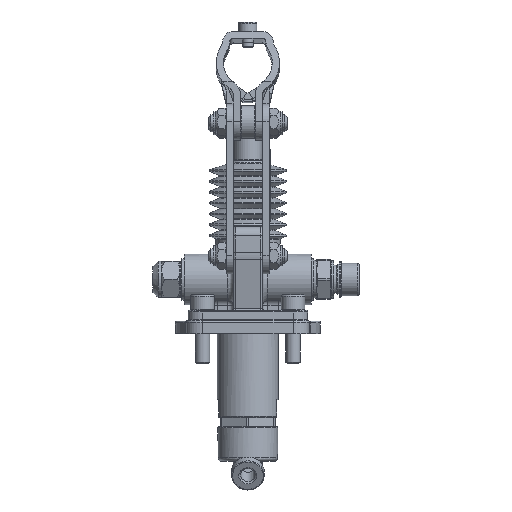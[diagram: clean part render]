
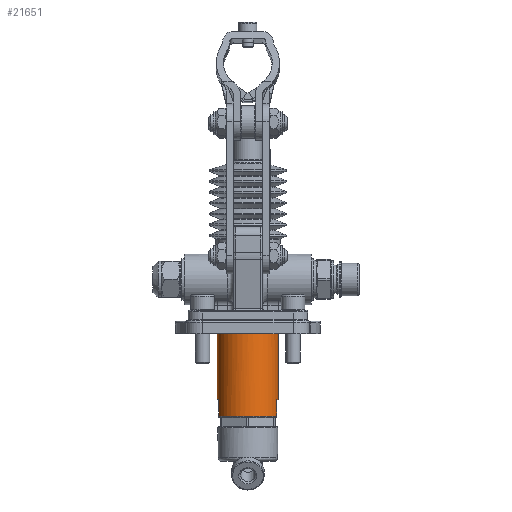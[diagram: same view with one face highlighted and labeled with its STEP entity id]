
A CAD part, left-side view. The second image highlights one B-rep face of the part: STEP entity #21651.
In plain terms, the highlighted cylindrical face has radius 17 mm (diameter 34 mm), a full revolution.
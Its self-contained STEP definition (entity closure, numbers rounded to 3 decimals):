
#21296=CARTESIAN_POINT('',(53.255,18.0,-37.5));
#21297=VERTEX_POINT('',#21296);
#21298=CARTESIAN_POINT('',(64.745,18.,-37.5));
#21299=VERTEX_POINT('',#21298);
#21300=CARTESIAN_POINT('',(59.,34.0,-37.5));
#21301=DIRECTION('',(0.0,0.0,1.0));
#21302=DIRECTION('',(1.0,0.0,0.0));
#21303=AXIS2_PLACEMENT_3D('',#21300,#21301,#21302);
#21304=CIRCLE('',#21303,17.0);
#21305=EDGE_CURVE('',#21297,#21299,#21304,.T.);
#21321=CARTESIAN_POINT('',(64.745,18.,-46.5));
#21322=VERTEX_POINT('',#21321);
#21336=CARTESIAN_POINT('',(64.745,18.,-37.5));
#21337=DIRECTION('',(0.0,0.0,-1.0));
#21338=VECTOR('',#21337,9.0);
#21339=LINE('',#21336,#21338);
#21340=EDGE_CURVE('',#21299,#21322,#21339,.T.);
#21343=CARTESIAN_POINT('',(53.255,18.0,-46.5));
#21344=VERTEX_POINT('',#21343);
#21345=CARTESIAN_POINT('',(53.255,18.0,-46.5));
#21346=DIRECTION('',(0.0,0.0,1.0));
#21347=VECTOR('',#21346,9.0);
#21348=LINE('',#21345,#21347);
#21349=EDGE_CURVE('',#21344,#21297,#21348,.T.);
#21373=CARTESIAN_POINT('',(53.255,50.0,-37.5));
#21374=VERTEX_POINT('',#21373);
#21375=CARTESIAN_POINT('',(53.255,50.0,-46.5));
#21376=VERTEX_POINT('',#21375);
#21377=CARTESIAN_POINT('',(53.255,50.0,-37.5));
#21378=DIRECTION('',(0.0,0.0,-1.0));
#21379=VECTOR('',#21378,9.0);
#21380=LINE('',#21377,#21379);
#21381=EDGE_CURVE('',#21374,#21376,#21380,.T.);
#21383=CARTESIAN_POINT('',(64.745,50.,-37.5));
#21384=VERTEX_POINT('',#21383);
#21391=CARTESIAN_POINT('',(64.745,50.,-46.5));
#21392=VERTEX_POINT('',#21391);
#21393=CARTESIAN_POINT('',(64.745,50.,-46.5));
#21394=DIRECTION('',(0.0,0.0,1.0));
#21395=VECTOR('',#21394,9.0);
#21396=LINE('',#21393,#21395);
#21397=EDGE_CURVE('',#21392,#21384,#21396,.T.);
#21434=CARTESIAN_POINT('',(59.,34.0,-37.5));
#21435=DIRECTION('',(0.0,0.0,1.0));
#21436=DIRECTION('',(1.0,0.0,0.0));
#21437=AXIS2_PLACEMENT_3D('',#21434,#21435,#21436);
#21438=CIRCLE('',#21437,17.0);
#21439=EDGE_CURVE('',#21384,#21374,#21438,.T.);
#21451=CARTESIAN_POINT('',(59.,34.0,-46.5));
#21452=DIRECTION('',(0.0,0.0,-1.0));
#21453=DIRECTION('',(1.0,0.0,0.0));
#21454=AXIS2_PLACEMENT_3D('',#21451,#21452,#21453);
#21455=CIRCLE('',#21454,17.0);
#21456=EDGE_CURVE('',#21344,#21376,#21455,.T.);
#21615=CARTESIAN_POINT('',(59.,34.0,-46.5));
#21616=DIRECTION('',(0.0,0.0,-1.0));
#21617=DIRECTION('',(1.0,0.0,0.0));
#21618=AXIS2_PLACEMENT_3D('',#21615,#21616,#21617);
#21619=CIRCLE('',#21618,17.0);
#21620=EDGE_CURVE('',#21392,#21322,#21619,.T.);
#21625=CARTESIAN_POINT('',(59.,34.0,-47.5));
#21626=DIRECTION('',(0.,0.0,1.0));
#21627=DIRECTION('',(1.0,0.0,0.0));
#21628=AXIS2_PLACEMENT_3D('',#21625,#21626,#21627);
#21629=CYLINDRICAL_SURFACE('',#21628,17.0);
#21630=CARTESIAN_POINT('',(42.,34.,1.25));
#21631=VERTEX_POINT('',#21630);
#21632=CARTESIAN_POINT('',(59.,34.0,1.25));
#21633=DIRECTION('',(0.0,0.0,-1.0));
#21634=DIRECTION('',(1.0,0.0,0.0));
#21635=AXIS2_PLACEMENT_3D('',#21632,#21633,#21634);
#21636=CIRCLE('',#21635,17.0);
#21637=EDGE_CURVE('',#21631,#21631,#21636,.T.);
#21638=ORIENTED_EDGE('',*,*,#21637,.T.);
#21639=EDGE_LOOP('',(#21638));
#21640=FACE_OUTER_BOUND('',#21639,.T.);
#21641=ORIENTED_EDGE('',*,*,#21340,.T.);
#21642=ORIENTED_EDGE('',*,*,#21620,.F.);
#21643=ORIENTED_EDGE('',*,*,#21397,.T.);
#21644=ORIENTED_EDGE('',*,*,#21439,.T.);
#21645=ORIENTED_EDGE('',*,*,#21381,.T.);
#21646=ORIENTED_EDGE('',*,*,#21456,.F.);
#21647=ORIENTED_EDGE('',*,*,#21349,.T.);
#21648=ORIENTED_EDGE('',*,*,#21305,.T.);
#21649=EDGE_LOOP('',(#21641,#21642,#21643,#21644,#21645,#21646,#21647,#21648));
#21650=FACE_BOUND('',#21649,.T.);
#21651=ADVANCED_FACE('',(#21640,#21650),#21629,.T.);
